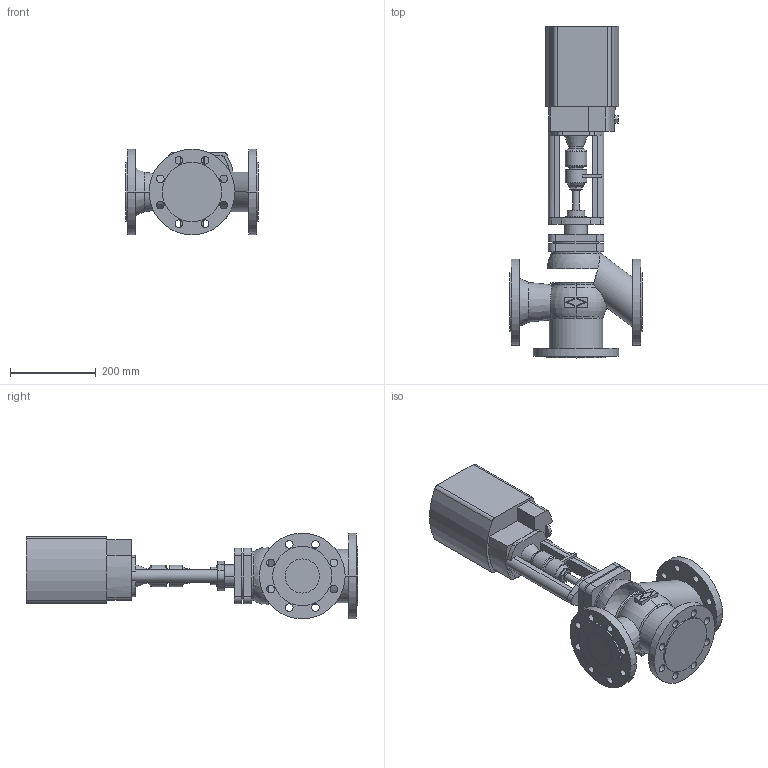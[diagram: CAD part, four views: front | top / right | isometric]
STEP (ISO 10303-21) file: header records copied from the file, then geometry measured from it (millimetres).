
FILE_DESCRIPTION( ( '' ), '1' );
FILE_NAME( 'F:/DE-SHS/TB/OR/04-Sonstiges/daten/files_3d/450-PREMIO-Plus-2G/c000006513.stp', '2017-02-22T12:48:53', ( '' ), ( '' ), ' ', ' ', ' ' );
FILE_SCHEMA( ( 'CONFIG_CONTROL_DESIGN' ) );
Length unit declared in the file: millimetre
Products named in the file (2): 1; 2
Bounding box: 310 x 775 x 200 mm (x, y, z)
Volume: 11603315.1 mm3; surface area: 722236.5 mm2
Topology: 2 solids, 2 shells, 282 faces, 745 edges, 489 vertices
Faces by surface type: cylinder 136, plane 112, torus 20, cone 12, sphere 2
Entity records: 9506 total; most frequent: CARTESIAN_POINT 2032, DIRECTION 1654, ORIENTED_EDGE 1482, EDGE_CURVE 741, AXIS2_PLACEMENT_3D 655, VERTEX_POINT 489, CIRCLE 369, EDGE_LOOP 356
